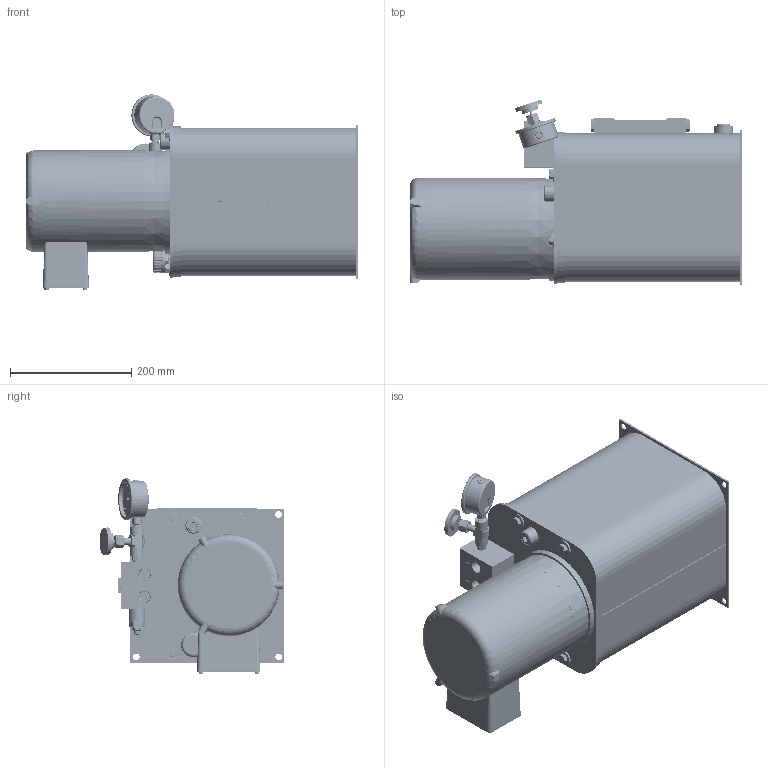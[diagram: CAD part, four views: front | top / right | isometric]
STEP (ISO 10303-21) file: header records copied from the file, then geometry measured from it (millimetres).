
FILE_DESCRIPTION (( 'STEP AP214' ), '1' );
FILE_NAME ('T3V-X-10-NN--034.STEP', '2021-08-25T16:08:01', ( '' ), ( '' ), 'SwSTEP 2.0', 'SolidWorks 2020', '' );
FILE_SCHEMA (( 'AUTOMOTIVE_DESIGN' ));
Length unit declared in the file: inch
Products named in the file (1): T3V-X-10-NN--034
Bounding box: 547.61 x 304.95 x 321.86 mm (x, y, z)
Surface area: 1409367.8 mm2 (no closed solid volume)
Topology: 0 solids, 60 shells, 4889 faces, 12624 edges, 7970 vertices
Faces by surface type: plane 1791, cylinder 1403, cone 645, bspline 541, torus 429, sphere 80
Entity records: 301318 total; most frequent: CARTESIAN_POINT 130733, ORIENTED_EDGE 25014, DIRECTION 17767, EDGE_CURVE 12526, VERTEX_POINT 7958, AXIS2_PLACEMENT_3D 6361, EDGE_LOOP 5224, VECTOR 5045
